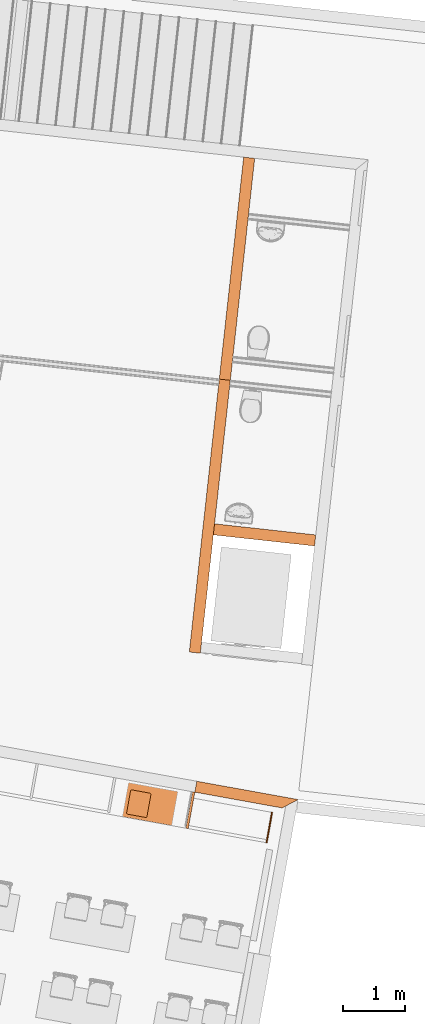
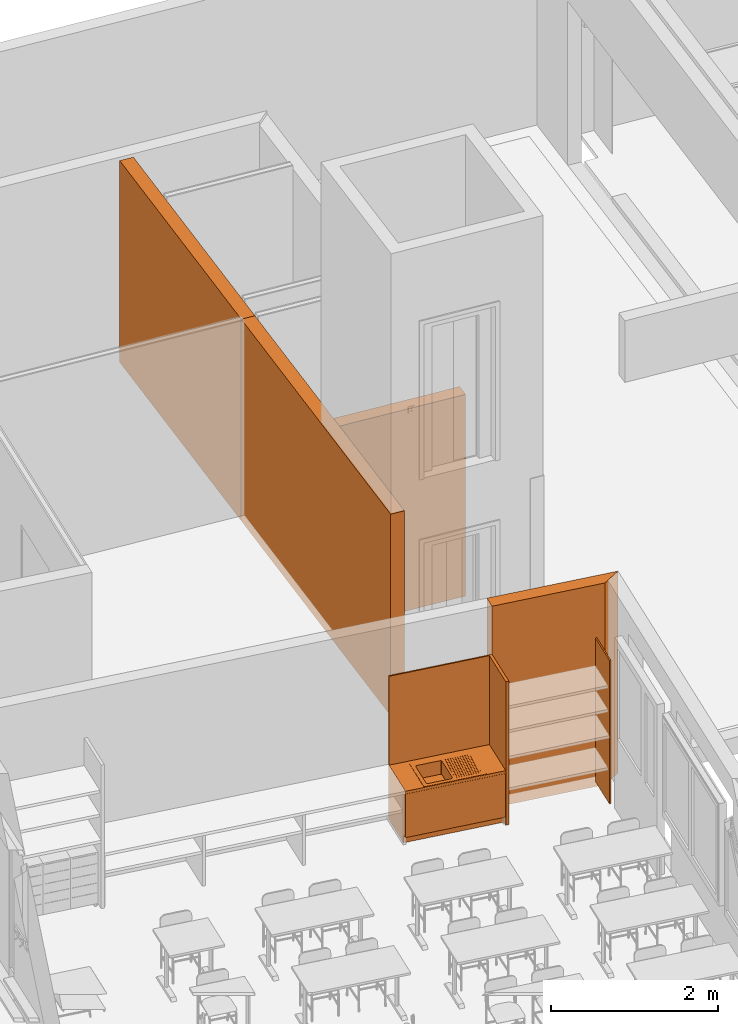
# One storey, part 49 of 79: 7 proxies.
"""IFC2X3 building model written with IfcOpenShell, lengths in metres."""

from ifc_helpers import new_model, entity, si_unit, converted_unit, derived_unit, money_unit, direction, frame, origin_with_axes, place, context, subcontext, project, spatial, polyline, outline, extrude, open_shell, faceted_brep, surface_model, source, transform, mapped, material, type_object, element, save


model = new_model("IFC2X3")

# Units and contexts
model_context = context("Model", 3, precision=1e-05, world=origin_with_axes(), true_north=direction((0.0, 1.0)))
body_context = subcontext(model_context, "Body", "Model", "MODEL_VIEW")
ifc_project = project(units=[si_unit("LENGTHUNIT", "METRE"), si_unit("AREAUNIT", "SQUARE_METRE"), si_unit("VOLUMEUNIT", "CUBIC_METRE"), converted_unit("PLANEANGLEUNIT", "DEGREE", entity("IfcPlaneAngleMeasure", 0.0174532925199), si_unit("PLANEANGLEUNIT", "RADIAN"), dimensions=[0, 0, 0, 0, 0, 0, 0]), money_unit("CHF"), converted_unit("TIMEUNIT", "Year", entity("IfcTimeMeasure", 31556926.0), si_unit("TIMEUNIT", "SECOND"), dimensions=[0, 0, 1, 0, 0, 0, 0]), si_unit("MASSUNIT", "GRAM", prefix="KILO"), si_unit("THERMODYNAMICTEMPERATUREUNIT", "DEGREE_CELSIUS"), si_unit("LUMINOUSINTENSITYUNIT", "LUMEN"), si_unit("ENERGYUNIT", "JOULE", prefix="MEGA"), derived_unit("THERMALCONDUCTANCEUNIT", [(si_unit("POWERUNIT", "WATT"), 1), (si_unit("LENGTHUNIT", "METRE"), -1), (si_unit("THERMODYNAMICTEMPERATUREUNIT", "KELVIN"), -1)]), derived_unit("SPECIFICHEATCAPACITYUNIT", [(si_unit("ENERGYUNIT", "JOULE"), 1), (si_unit("MASSUNIT", "GRAM", prefix="KILO"), -1), (si_unit("THERMODYNAMICTEMPERATUREUNIT", "KELVIN"), -1)]), derived_unit("MASSDENSITYUNIT", [(si_unit("MASSUNIT", "GRAM", prefix="KILO"), 1), (si_unit("VOLUMEUNIT", "CUBIC_METRE"), -1)])], contexts=[model_context])

# Site, building, storey
site_placement = place(None, frame((0.0, 0.0, 0.0), z_axis=(0.0, 0.0, 1.0), x_axis=(-0.177771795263, -0.984071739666, 0.0)))
site = spatial("IfcSite", under=ifc_project, at=site_placement, Name="Site", CompositionType="ELEMENT")
building_placement = place(site_placement, origin_with_axes())
building = spatial("IfcBuilding", under=site, at=building_placement, Name="Bâtiment", CompositionType="ELEMENT")
storey_placement = place(building_placement, origin_with_axes())
storey = spatial("IfcBuildingStorey", under=building, at=storey_placement, Name="RDC", CompositionType="ELEMENT", Elevation=0.0)

# Proxies
ifc_material_1 = material(Name="_BA banché RAL9007")
building_element_proxy_type_1 = type_object("IfcBuildingElementProxyType", Name="_BA banché RAL9007 180", PredefinedType="NOTDEFINED")
proxy_1_placement = place(storey_placement, frame((105.947008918, -150.23269007, -0.15), z_axis=(0.0, 0.0, 1.0), x_axis=(-0.0692627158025, 0.997598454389, 0.0)))
element("IfcBuildingElementProxy", 1, at=proxy_1_placement, inside=storey, type_object=building_element_proxy_type_1, material=ifc_material_1, Name="M refend", context=body_context, shape_type="SweptSolid", body=[
    extrude(outline(polyline([(0.0, 0.0), (1.6499974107, 0.0), (1.64999716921, 0.18), (0.0, 0.18), (0.0, 0.0)])), origin_with_axes(), (0.0, 0.0, 1.0), 2.95),
])
proxy_2_placement = place(storey_placement, frame((99.6425598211, -150.670404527, -0.15), z_axis=(0.0, 0.0, 1.0), x_axis=(0.997598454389, 0.0692627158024, 0.0)))
element("IfcBuildingElementProxy", 2, at=proxy_2_placement, inside=storey, type_object=building_element_proxy_type_1, material=ifc_material_1, Name="M refend", context=body_context, shape_type="SweptSolid", body=[
    extrude(outline(polyline([(0.179999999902, -0.18), (3.8, -0.18), (3.8, 0.0), (0.1799999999, 0.0), (0.179999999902, -0.18)])), origin_with_axes(), (0.0, 0.0, 1.0), 2.95),
])
proxy_3_placement = place(storey_placement, frame((103.433433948, -150.407206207, -0.15), z_axis=(0.0, 0.0, 1.0), x_axis=(0.997598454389, 0.0692627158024, 0.0)))
element("IfcBuildingElementProxy", 3, at=proxy_3_placement, inside=storey, type_object=building_element_proxy_type_1, material=ifc_material_1, Name="M refend", context=body_context, shape_type="SweptSolid", body=[
    extrude(outline(polyline([(0.0, -0.18), (4.44962596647, -0.18), (4.44962596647, 0.0), (0.0, 0.0), (0.0, -0.18)])), origin_with_axes(), (0.0, 0.0, 1.0), 2.95),
])
ifc_material_2 = material(Name="Matériau de construction IFC")
building_element_proxy_type_2 = type_object("IfcBuildingElementProxyType", Name="Elément simple avec deux portes 21", PredefinedType="NOTDEFINED")
shared_shape = source(origin_with_axes(), body_context, "Body", "SurfaceModel", [
    surface_model("IfcShellBasedSurfaceModel", [(0.5, 0.600000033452, 0.733), (0.496505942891, 0.600000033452, 0.733460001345), (0.496505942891, 0.620000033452, 0.733460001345), (0.5, 0.620000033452, 0.733), (0.49325, 0.600000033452, 0.734808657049), (0.49325, 0.620000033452, 0.734808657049), (0.503494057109, 0.600000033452, 0.733460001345), (0.503494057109, 0.620000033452, 0.733460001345), (0.490454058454, 0.600000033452, 0.736954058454), (0.490454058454, 0.620000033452, 0.736954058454), (0.50675, 0.600000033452, 0.734808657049), (0.50675, 0.620000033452, 0.734808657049), (0.488308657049, 0.600000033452, 0.73975), (0.488308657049, 0.620000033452, 0.73975), (0.509545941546, 0.600000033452, 0.736954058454), (0.509545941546, 0.620000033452, 0.736954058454), (0.486960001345, 0.600000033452, 0.743005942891), (0.486960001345, 0.620000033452, 0.743005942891), (0.511691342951, 0.600000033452, 0.73975), (0.511691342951, 0.620000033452, 0.73975), (0.4865, 0.600000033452, 0.7465), (0.4865, 0.620000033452, 0.7465), (0.513039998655, 0.600000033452, 0.743005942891), (0.513039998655, 0.620000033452, 0.743005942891), (0.486960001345, 0.600000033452, 0.749994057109), (0.486960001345, 0.620000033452, 0.749994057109), (0.5135, 0.600000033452, 0.7465), (0.5135, 0.620000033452, 0.7465), (0.488308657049, 0.600000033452, 0.75325), (0.488308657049, 0.620000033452, 0.75325), (0.513039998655, 0.600000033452, 0.749994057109), (0.513039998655, 0.620000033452, 0.749994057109), (0.490454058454, 0.600000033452, 0.756045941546), (0.490454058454, 0.620000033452, 0.756045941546), (0.511691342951, 0.600000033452, 0.75325), (0.511691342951, 0.620000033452, 0.75325), (0.49325, 0.600000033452, 0.758191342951), (0.49325, 0.620000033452, 0.758191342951), (0.509545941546, 0.600000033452, 0.756045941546), (0.509545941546, 0.620000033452, 0.756045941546), (0.496505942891, 0.600000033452, 0.759539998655), (0.496505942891, 0.620000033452, 0.759539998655), (0.50675, 0.600000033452, 0.758191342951), (0.50675, 0.620000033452, 0.758191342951), (0.5, 0.600000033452, 0.76), (0.5, 0.620000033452, 0.76), (0.503494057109, 0.600000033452, 0.759539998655), (0.503494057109, 0.620000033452, 0.759539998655)], [open_shell([[[0, 1, 2, 3]], [[1, 4, 5, 2]], [[6, 0, 3, 7]], [[4, 8, 9, 5]], [[10, 6, 7, 11]], [[8, 12, 13, 9]], [[14, 10, 11, 15]], [[12, 16, 17, 13]], [[18, 14, 15, 19]], [[16, 20, 21, 17]], [[22, 18, 19, 23]], [[20, 24, 25, 21]], [[26, 22, 23, 27]], [[24, 28, 29, 25]], [[30, 26, 27, 31]], [[28, 32, 33, 29]], [[34, 30, 31, 35]], [[32, 36, 37, 33]], [[38, 34, 35, 39]], [[36, 40, 41, 37]], [[42, 38, 39, 43]], [[40, 44, 45, 41]], [[46, 42, 43, 47]], [[44, 46, 47, 45]]])]),
    surface_model("IfcShellBasedSurfaceModel", [(0.7, 0.600000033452, 0.733), (0.696505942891, 0.600000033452, 0.733460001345), (0.696505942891, 0.620000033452, 0.733460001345), (0.7, 0.620000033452, 0.733), (0.69325, 0.600000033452, 0.734808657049), (0.69325, 0.620000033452, 0.734808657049), (0.703494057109, 0.600000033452, 0.733460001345), (0.703494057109, 0.620000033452, 0.733460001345), (0.690454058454, 0.600000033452, 0.736954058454), (0.690454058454, 0.620000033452, 0.736954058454), (0.70675, 0.600000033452, 0.734808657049), (0.70675, 0.620000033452, 0.734808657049), (0.688308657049, 0.600000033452, 0.73975), (0.688308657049, 0.620000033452, 0.73975), (0.709545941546, 0.600000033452, 0.736954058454), (0.709545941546, 0.620000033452, 0.736954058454), (0.686960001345, 0.600000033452, 0.743005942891), (0.686960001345, 0.620000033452, 0.743005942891), (0.711691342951, 0.600000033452, 0.73975), (0.711691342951, 0.620000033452, 0.73975), (0.6865, 0.600000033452, 0.7465), (0.6865, 0.620000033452, 0.7465), (0.713039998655, 0.600000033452, 0.743005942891), (0.713039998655, 0.620000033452, 0.743005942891), (0.686960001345, 0.600000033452, 0.749994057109), (0.686960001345, 0.620000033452, 0.749994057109), (0.7135, 0.600000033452, 0.7465), (0.7135, 0.620000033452, 0.7465), (0.688308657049, 0.600000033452, 0.75325), (0.688308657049, 0.620000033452, 0.75325), (0.713039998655, 0.600000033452, 0.749994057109), (0.713039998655, 0.620000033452, 0.749994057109), (0.690454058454, 0.600000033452, 0.756045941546), (0.690454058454, 0.620000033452, 0.756045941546), (0.711691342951, 0.600000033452, 0.75325), (0.711691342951, 0.620000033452, 0.75325), (0.69325, 0.600000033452, 0.758191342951), (0.69325, 0.620000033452, 0.758191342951), (0.709545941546, 0.600000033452, 0.756045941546), (0.709545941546, 0.620000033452, 0.756045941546), (0.696505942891, 0.600000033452, 0.759539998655), (0.696505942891, 0.620000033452, 0.759539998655), (0.70675, 0.600000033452, 0.758191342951), (0.70675, 0.620000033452, 0.758191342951), (0.7, 0.600000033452, 0.76), (0.7, 0.620000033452, 0.76), (0.703494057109, 0.600000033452, 0.759539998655), (0.703494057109, 0.620000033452, 0.759539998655)], [open_shell([[[0, 1, 2, 3]], [[1, 4, 5, 2]], [[6, 0, 3, 7]], [[4, 8, 9, 5]], [[10, 6, 7, 11]], [[8, 12, 13, 9]], [[14, 10, 11, 15]], [[12, 16, 17, 13]], [[18, 14, 15, 19]], [[16, 20, 21, 17]], [[22, 18, 19, 23]], [[20, 24, 25, 21]], [[26, 22, 23, 27]], [[24, 28, 29, 25]], [[30, 26, 27, 31]], [[28, 32, 33, 29]], [[34, 30, 31, 35]], [[32, 36, 37, 33]], [[38, 34, 35, 39]], [[36, 40, 41, 37]], [[42, 38, 39, 43]], [[40, 44, 45, 41]], [[46, 42, 43, 47]], [[44, 46, 47, 45]]])]),
    surface_model("IfcShellBasedSurfaceModel", [(0.6, 0.600000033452, 0.579), (0.594564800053, 0.600000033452, 0.579715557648), (0.594564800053, 0.620000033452, 0.579715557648), (0.6, 0.620000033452, 0.579), (0.5895, 0.600000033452, 0.581813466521), (0.5895, 0.620000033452, 0.581813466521), (0.605435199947, 0.600000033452, 0.579715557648), (0.605435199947, 0.620000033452, 0.579715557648), (0.585150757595, 0.600000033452, 0.585150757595), (0.585150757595, 0.620000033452, 0.585150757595), (0.6105, 0.600000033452, 0.581813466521), (0.6105, 0.620000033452, 0.581813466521), (0.581813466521, 0.600000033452, 0.5895), (0.581813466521, 0.620000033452, 0.5895), (0.614849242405, 0.600000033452, 0.585150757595), (0.614849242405, 0.620000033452, 0.585150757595), (0.579715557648, 0.600000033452, 0.594564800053), (0.579715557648, 0.620000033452, 0.594564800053), (0.618186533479, 0.600000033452, 0.5895), (0.618186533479, 0.620000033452, 0.5895), (0.579, 0.600000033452, 0.6), (0.579, 0.620000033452, 0.6), (0.620284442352, 0.600000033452, 0.594564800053), (0.620284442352, 0.620000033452, 0.594564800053), (0.579715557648, 0.600000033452, 0.605435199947), (0.579715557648, 0.620000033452, 0.605435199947), (0.621, 0.600000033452, 0.6), (0.621, 0.620000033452, 0.6), (0.581813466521, 0.600000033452, 0.6105), (0.581813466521, 0.620000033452, 0.6105), (0.620284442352, 0.600000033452, 0.605435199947), (0.620284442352, 0.620000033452, 0.605435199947), (0.585150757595, 0.600000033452, 0.614849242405), (0.585150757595, 0.620000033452, 0.614849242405), (0.618186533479, 0.600000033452, 0.6105), (0.618186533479, 0.620000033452, 0.6105), (0.5895, 0.600000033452, 0.618186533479), (0.5895, 0.620000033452, 0.618186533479), (0.614849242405, 0.600000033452, 0.614849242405), (0.614849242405, 0.620000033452, 0.614849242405), (0.594564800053, 0.600000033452, 0.620284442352), (0.594564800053, 0.620000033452, 0.620284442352), (0.6105, 0.600000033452, 0.618186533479), (0.6105, 0.620000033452, 0.618186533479), (0.6, 0.600000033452, 0.621), (0.6, 0.620000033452, 0.621), (0.605435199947, 0.600000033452, 0.620284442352), (0.605435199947, 0.620000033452, 0.620284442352)], [open_shell([[[0, 1, 2, 3]], [[1, 4, 5, 2]], [[6, 0, 3, 7]], [[4, 8, 9, 5]], [[10, 6, 7, 11]], [[8, 12, 13, 9]], [[14, 10, 11, 15]], [[12, 16, 17, 13]], [[18, 14, 15, 19]], [[16, 20, 21, 17]], [[22, 18, 19, 23]], [[20, 24, 25, 21]], [[26, 22, 23, 27]], [[24, 28, 29, 25]], [[30, 26, 27, 31]], [[28, 32, 33, 29]], [[34, 30, 31, 35]], [[32, 36, 37, 33]], [[38, 34, 35, 39]], [[36, 40, 41, 37]], [[42, 38, 39, 43]], [[40, 44, 45, 41]], [[46, 42, 43, 47]], [[44, 46, 47, 45]]])]),
    faceted_brep([(0.0, 0.07, 0.0), (1.278, 0.07, 0.0), (1.278, 0.07, 0.12), (0.0, 0.07, 0.12), (0.0, 0.600000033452, 0.0), (1.278, 0.600000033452, 0.0), (1.278, 0.600000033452, 0.12), (0.0, 0.600000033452, 0.12)], [[[0, 1, 2, 3]], [[0, 4, 5, 1]], [[1, 5, 6, 2]], [[3, 2, 6, 7]], [[4, 0, 3, 7]], [[5, 4, 7, 6]]]),
    faceted_brep([(0.0, 0.02, 0.12), (0.02, 0.02, 0.12), (0.02, 0.02, 0.14), (0.0, 0.02, 0.14), (0.0, 0.600000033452, 0.12), (0.02, 0.600000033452, 0.12), (1.258, 0.600000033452, 0.12), (1.278, 0.600000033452, 0.12), (1.278, 0.02, 0.12), (1.258, 0.02, 0.12), (1.258, 0.02, 0.14), (1.278, 0.02, 0.14), (1.278, 0.600000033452, 0.14), (1.258, 0.600000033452, 0.14), (0.02, 0.600000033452, 0.14), (0.0, 0.600000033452, 0.14)], [[[0, 1, 2, 3]], [[0, 4, 5, 6, 7, 8, 9, 1]], [[1, 9, 10, 2]], [[3, 2, 10, 11, 12, 13, 14, 15]], [[4, 0, 3, 15]], [[5, 4, 15, 14]], [[6, 5, 14, 13]], [[7, 6, 13, 12]], [[8, 7, 12, 11]], [[9, 8, 11, 10]]]),
    faceted_brep([(0.0, 0.02, 0.14), (0.02, 0.02, 0.14), (0.02, 0.02, 0.76), (0.0, 0.02, 0.76), (0.0, 0.600000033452, 0.14), (1.278, 0.600000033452, 0.14), (1.278, 0.02, 0.14), (1.258, 0.02, 0.14), (1.258, 0.580000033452, 0.14), (0.02, 0.580000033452, 0.14), (0.02, 0.580000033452, 0.76), (1.258, 0.580000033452, 0.76), (1.258, 0.02, 0.76), (1.278, 0.02, 0.76), (1.278, 0.600000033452, 0.76), (0.0, 0.600000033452, 0.76)], [[[0, 1, 2, 3]], [[0, 4, 5, 6, 7, 8, 9, 1]], [[1, 9, 10, 2]], [[3, 2, 10, 11, 12, 13, 14, 15]], [[4, 0, 3, 15]], [[5, 4, 15, 14]], [[6, 5, 14, 13]], [[7, 6, 13, 12]], [[8, 7, 12, 11]], [[9, 8, 11, 10]]]),
    faceted_brep([(1.258, 0.02, 0.41), (1.258, 0.580000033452, 0.41), (1.258, 0.580000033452, 0.43), (1.258, 0.02, 0.43), (0.02, 0.02, 0.41), (0.02, 0.580000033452, 0.41), (0.02, 0.580000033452, 0.43), (0.02, 0.02, 0.43)], [[[0, 1, 2, 3]], [[0, 4, 5, 1]], [[1, 5, 6, 2]], [[3, 2, 6, 7]], [[4, 0, 3, 7]], [[5, 4, 7, 6]]]),
    surface_model("IfcShellBasedSurfaceModel", [(0.309, 0.0550000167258, 0.605), (0.604, 0.0550000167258, 0.605), (0.604, 0.0550000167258, 0.8), (0.309, 0.0550000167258, 0.8), (0.299, 0.0576795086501, 0.605), (0.291679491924, 0.0650000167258, 0.605), (0.289, 0.0750000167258, 0.605), (0.289, 0.435000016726, 0.605), (0.291679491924, 0.445000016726, 0.605), (0.299, 0.452320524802, 0.605), (0.309, 0.455000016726, 0.605), (0.604, 0.455000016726, 0.605), (0.614, 0.452320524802, 0.605), (0.621320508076, 0.445000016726, 0.605), (0.624, 0.435000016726, 0.605), (0.624, 0.0750000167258, 0.605), (0.618142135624, 0.0608578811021, 0.605), (0.618142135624, 0.0608578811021, 0.8), (0.299, 0.0576795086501, 0.8), (0.291679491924, 0.0650000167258, 0.8), (0.289, 0.0750000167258, 0.8), (0.289, 0.435000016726, 0.8), (0.291679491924, 0.445000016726, 0.8), (0.299, 0.452320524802, 0.8), (0.309, 0.455000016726, 0.8), (0.604, 0.455000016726, 0.8), (0.614, 0.452320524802, 0.8), (0.621320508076, 0.445000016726, 0.8), (0.624, 0.435000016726, 0.8), (0.624, 0.0750000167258, 0.8)], [open_shell([[[0, 1, 2, 3]], [[0, 4, 5, 6, 7, 8, 9, 10, 11, 12, 13, 14, 15, 16, 1]], [[1, 16, 17, 2]], [[4, 0, 3, 18]], [[5, 4, 18, 19]], [[6, 5, 19, 20]], [[7, 6, 20, 21]], [[8, 7, 21, 22]], [[9, 8, 22, 23]], [[10, 9, 23, 24]], [[11, 10, 24, 25]], [[12, 11, 25, 26]], [[13, 12, 26, 27]], [[14, 13, 27, 28]], [[15, 14, 28, 29]], [[16, 15, 29, 17]]])]),
    faceted_brep([(0.259, 0.00500001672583, 0.8), (1.019, 0.00500001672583, 0.8), (1.019, 0.00500001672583, 0.805), (0.259, 0.00500001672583, 0.805), (0.249, 0.00767950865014, 0.8), (0.241679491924, 0.0150000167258, 0.8), (0.239, 0.0250000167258, 0.8), (0.239, 0.535000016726, 0.8), (0.241679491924, 0.545000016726, 0.8), (0.249, 0.552320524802, 0.8), (0.259, 0.555000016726, 0.8), (1.019, 0.555000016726, 0.8), (1.029, 0.552320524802, 0.8), (1.03632050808, 0.545000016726, 0.8), (1.039, 0.535000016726, 0.8), (1.039, 0.0250000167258, 0.8), (1.03314213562, 0.0108578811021, 0.8), (0.309, 0.0550000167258, 0.8), (0.604, 0.0550000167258, 0.8), (0.618142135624, 0.0608578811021, 0.8), (0.624, 0.0750000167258, 0.8), (0.624, 0.435000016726, 0.8), (0.621320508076, 0.445000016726, 0.8), (0.614, 0.452320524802, 0.8), (0.604, 0.455000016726, 0.8), (0.309, 0.455000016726, 0.8), (0.299, 0.452320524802, 0.8), (0.291679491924, 0.445000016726, 0.8), (0.289, 0.435000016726, 0.8), (0.289, 0.0750000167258, 0.8), (0.291679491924, 0.0650000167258, 0.8), (0.299, 0.0576795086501, 0.8), (1.03314213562, 0.0108578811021, 0.805), (1.039, 0.0250000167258, 0.805), (1.039, 0.535000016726, 0.805), (1.03632050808, 0.545000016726, 0.805), (1.029, 0.552320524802, 0.805), (1.019, 0.555000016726, 0.805), (0.259, 0.555000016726, 0.805), (0.249, 0.552320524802, 0.805), (0.241679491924, 0.545000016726, 0.805), (0.239, 0.535000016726, 0.805), (0.239, 0.0250000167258, 0.805), (0.241679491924, 0.0150000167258, 0.805), (0.249, 0.00767950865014, 0.805), (0.309, 0.0550000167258, 0.805), (0.299, 0.0576795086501, 0.805), (0.291679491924, 0.0650000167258, 0.805), (0.289, 0.0750000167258, 0.805), (0.289, 0.435000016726, 0.805), (0.291679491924, 0.445000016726, 0.805), (0.299, 0.452320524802, 0.805), (0.309, 0.455000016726, 0.805), (0.604, 0.455000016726, 0.805), (0.614, 0.452320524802, 0.805), (0.621320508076, 0.445000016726, 0.805), (0.624, 0.435000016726, 0.805), (0.624, 0.0750000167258, 0.805), (0.618142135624, 0.0608578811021, 0.805), (0.604, 0.0550000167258, 0.805)], [[[0, 1, 2, 3]], [[0, 4, 5, 6, 7, 8, 9, 10, 11, 12, 13, 14, 15, 16, 1], [17, 18, 19, 20, 21, 22, 23, 24, 25, 26, 27, 28, 29, 30, 31]], [[1, 16, 32, 2]], [[3, 2, 32, 33, 34, 35, 36, 37, 38, 39, 40, 41, 42, 43, 44], [45, 46, 47, 48, 49, 50, 51, 52, 53, 54, 55, 56, 57, 58, 59]], [[4, 0, 3, 44]], [[5, 4, 44, 43]], [[6, 5, 43, 42]], [[7, 6, 42, 41]], [[8, 7, 41, 40]], [[9, 8, 40, 39]], [[10, 9, 39, 38]], [[11, 10, 38, 37]], [[12, 11, 37, 36]], [[13, 12, 36, 35]], [[14, 13, 35, 34]], [[15, 14, 34, 33]], [[16, 15, 33, 32]], [[18, 17, 45, 59]], [[19, 18, 59, 58]], [[20, 19, 58, 57]], [[21, 20, 57, 56]], [[22, 21, 56, 55]], [[23, 22, 55, 54]], [[24, 23, 54, 53]], [[25, 24, 53, 52]], [[26, 25, 52, 51]], [[27, 26, 51, 50]], [[28, 27, 50, 49]], [[29, 28, 49, 48]], [[30, 29, 48, 47]], [[31, 30, 47, 46]], [[17, 31, 46, 45]]]),
    faceted_brep([(0.654, 0.0600000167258, 0.805), (0.959, 0.0600000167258, 0.805), (0.959, 0.0600000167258, 0.807), (0.654, 0.0600000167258, 0.807), (0.654, 0.0650000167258, 0.805), (0.959, 0.0650000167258, 0.805), (0.959, 0.0650000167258, 0.807), (0.654, 0.0650000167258, 0.807)], [[[0, 1, 2, 3]], [[0, 4, 5, 1]], [[1, 5, 6, 2]], [[3, 2, 6, 7]], [[4, 0, 3, 7]], [[5, 4, 7, 6]]]),
    faceted_brep([(0.654, 0.0925000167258, 0.805), (0.989, 0.0925000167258, 0.805), (0.989, 0.0925000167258, 0.807), (0.654, 0.0925000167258, 0.807), (0.654, 0.0975000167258, 0.805), (0.989, 0.0975000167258, 0.805), (0.989, 0.0975000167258, 0.807), (0.654, 0.0975000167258, 0.807)], [[[0, 1, 2, 3]], [[0, 4, 5, 1]], [[1, 5, 6, 2]], [[3, 2, 6, 7]], [[4, 0, 3, 7]], [[5, 4, 7, 6]]]),
    faceted_brep([(0.654, 0.125000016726, 0.805), (0.989, 0.125000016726, 0.805), (0.989, 0.125000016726, 0.807), (0.654, 0.125000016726, 0.807), (0.654, 0.130000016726, 0.805), (0.989, 0.130000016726, 0.805), (0.989, 0.130000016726, 0.807), (0.654, 0.130000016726, 0.807)], [[[0, 1, 2, 3]], [[0, 4, 5, 1]], [[1, 5, 6, 2]], [[3, 2, 6, 7]], [[4, 0, 3, 7]], [[5, 4, 7, 6]]]),
    faceted_brep([(0.654, 0.157500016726, 0.805), (0.989, 0.157500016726, 0.805), (0.989, 0.157500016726, 0.807), (0.654, 0.157500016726, 0.807), (0.654, 0.162500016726, 0.805), (0.989, 0.162500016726, 0.805), (0.989, 0.162500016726, 0.807), (0.654, 0.162500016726, 0.807)], [[[0, 1, 2, 3]], [[0, 4, 5, 1]], [[1, 5, 6, 2]], [[3, 2, 6, 7]], [[4, 0, 3, 7]], [[5, 4, 7, 6]]]),
    faceted_brep([(0.654, 0.190000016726, 0.805), (0.989, 0.190000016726, 0.805), (0.989, 0.190000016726, 0.807), (0.654, 0.190000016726, 0.807), (0.654, 0.195000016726, 0.805), (0.989, 0.195000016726, 0.805), (0.989, 0.195000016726, 0.807), (0.654, 0.195000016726, 0.807)], [[[0, 1, 2, 3]], [[0, 4, 5, 1]], [[1, 5, 6, 2]], [[3, 2, 6, 7]], [[4, 0, 3, 7]], [[5, 4, 7, 6]]]),
    faceted_brep([(0.654, 0.222500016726, 0.805), (0.989, 0.222500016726, 0.805), (0.989, 0.222500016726, 0.807), (0.654, 0.222500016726, 0.807), (0.654, 0.227500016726, 0.805), (0.989, 0.227500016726, 0.805), (0.989, 0.227500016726, 0.807), (0.654, 0.227500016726, 0.807)], [[[0, 1, 2, 3]], [[0, 4, 5, 1]], [[1, 5, 6, 2]], [[3, 2, 6, 7]], [[4, 0, 3, 7]], [[5, 4, 7, 6]]]),
    faceted_brep([(0.654, 0.255000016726, 0.805), (0.989, 0.255000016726, 0.805), (0.989, 0.255000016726, 0.807), (0.654, 0.255000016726, 0.807), (0.654, 0.260000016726, 0.805), (0.989, 0.260000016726, 0.805), (0.989, 0.260000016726, 0.807), (0.654, 0.260000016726, 0.807)], [[[0, 1, 2, 3]], [[0, 4, 5, 1]], [[1, 5, 6, 2]], [[3, 2, 6, 7]], [[4, 0, 3, 7]], [[5, 4, 7, 6]]]),
    faceted_brep([(0.654, 0.287500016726, 0.805), (0.989, 0.287500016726, 0.805), (0.989, 0.287500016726, 0.807), (0.654, 0.287500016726, 0.807), (0.654, 0.292500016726, 0.805), (0.989, 0.292500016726, 0.805), (0.989, 0.292500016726, 0.807), (0.654, 0.292500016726, 0.807)], [[[0, 1, 2, 3]], [[0, 4, 5, 1]], [[1, 5, 6, 2]], [[3, 2, 6, 7]], [[4, 0, 3, 7]], [[5, 4, 7, 6]]]),
    faceted_brep([(0.654, 0.320000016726, 0.805), (0.989, 0.320000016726, 0.805), (0.989, 0.320000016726, 0.807), (0.654, 0.320000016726, 0.807), (0.654, 0.325000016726, 0.805), (0.989, 0.325000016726, 0.805), (0.989, 0.325000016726, 0.807), (0.654, 0.325000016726, 0.807)], [[[0, 1, 2, 3]], [[0, 4, 5, 1]], [[1, 5, 6, 2]], [[3, 2, 6, 7]], [[4, 0, 3, 7]], [[5, 4, 7, 6]]]),
    faceted_brep([(0.654, 0.352500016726, 0.805), (0.989, 0.352500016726, 0.805), (0.989, 0.352500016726, 0.807), (0.654, 0.352500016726, 0.807), (0.654, 0.357500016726, 0.805), (0.989, 0.357500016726, 0.805), (0.989, 0.357500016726, 0.807), (0.654, 0.357500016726, 0.807)], [[[0, 1, 2, 3]], [[0, 4, 5, 1]], [[1, 5, 6, 2]], [[3, 2, 6, 7]], [[4, 0, 3, 7]], [[5, 4, 7, 6]]]),
    faceted_brep([(0.654, 0.385000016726, 0.805), (0.989, 0.385000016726, 0.805), (0.989, 0.385000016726, 0.807), (0.654, 0.385000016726, 0.807), (0.654, 0.390000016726, 0.805), (0.989, 0.390000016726, 0.805), (0.989, 0.390000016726, 0.807), (0.654, 0.390000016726, 0.807)], [[[0, 1, 2, 3]], [[0, 4, 5, 1]], [[1, 5, 6, 2]], [[3, 2, 6, 7]], [[4, 0, 3, 7]], [[5, 4, 7, 6]]]),
    faceted_brep([(0.654, 0.417500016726, 0.805), (0.989, 0.417500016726, 0.805), (0.989, 0.417500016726, 0.807), (0.654, 0.417500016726, 0.807), (0.654, 0.422500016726, 0.805), (0.989, 0.422500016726, 0.805), (0.989, 0.422500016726, 0.807), (0.654, 0.422500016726, 0.807)], [[[0, 1, 2, 3]], [[0, 4, 5, 1]], [[1, 5, 6, 2]], [[3, 2, 6, 7]], [[4, 0, 3, 7]], [[5, 4, 7, 6]]]),
    faceted_brep([(0.654, 0.450000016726, 0.805), (0.959, 0.450000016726, 0.805), (0.959, 0.450000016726, 0.807), (0.654, 0.450000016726, 0.807), (0.654, 0.455000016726, 0.805), (0.959, 0.455000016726, 0.805), (0.959, 0.455000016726, 0.807), (0.654, 0.455000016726, 0.807)], [[[0, 1, 2, 3]], [[0, 4, 5, 1]], [[1, 5, 6, 2]], [[3, 2, 6, 7]], [[4, 0, 3, 7]], [[5, 4, 7, 6]]]),
    faceted_brep([(0.0, 0.0, 0.76), (1.278, 0.0, 0.76), (1.278, 0.0, 0.8), (0.0, 0.0, 0.8), (0.0, 0.600000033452, 0.76), (1.278, 0.600000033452, 0.76), (0.264, 0.0500000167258, 0.76), (1.014, 0.0500000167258, 0.76), (1.014, 0.535000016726, 0.76), (0.264, 0.535000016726, 0.76), (1.278, 0.600000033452, 0.8), (0.0, 0.600000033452, 0.8), (0.264, 0.0500000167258, 0.8), (0.264, 0.535000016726, 0.8), (1.014, 0.535000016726, 0.8), (1.014, 0.0500000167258, 0.8)], [[[0, 1, 2, 3]], [[0, 4, 5, 1], [6, 7, 8, 9]], [[1, 5, 10, 2]], [[3, 2, 10, 11], [12, 13, 14, 15]], [[4, 0, 3, 11]], [[5, 4, 11, 10]], [[7, 6, 12, 15]], [[8, 7, 15, 14]], [[9, 8, 14, 13]], [[6, 9, 13, 12]]]),
    faceted_brep([(0.0, 0.580000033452, 0.8), (1.278, 0.580000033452, 0.8), (1.278, 0.580000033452, 2.1), (0.0, 0.580000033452, 2.1), (0.0, 0.600000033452, 0.8), (1.278, 0.600000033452, 0.8), (1.278, 0.600000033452, 2.1), (0.0, 0.600000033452, 2.1)], [[[0, 1, 2, 3]], [[0, 4, 5, 1]], [[1, 5, 6, 2]], [[3, 2, 6, 7]], [[4, 0, 3, 7]], [[5, 4, 7, 6]]]),
    faceted_brep([(0.0015, 0.02, 0.1215), (0.6375, 0.02, 0.1215), (0.6375, 0.0, 0.1215), (0.0015, 0.0, 0.1215), (0.0015, 0.02, 0.7585), (0.6375, 0.02, 0.7585), (0.6375, 0.0, 0.7585), (0.0015, 0.0, 0.7585)], [[[0, 1, 2, 3]], [[0, 4, 5, 1]], [[1, 5, 6, 2]], [[3, 2, 6, 7]], [[4, 0, 3, 7]], [[5, 4, 7, 6]]]),
    faceted_brep([(1.2765, 0.02, 0.1215), (1.2765, 0.0, 0.1215), (0.6405, 0.0, 0.1215), (0.6405, 0.02, 0.1215), (1.2765, 0.02, 0.7585), (1.2765, 0.0, 0.7585), (0.6405, 0.0, 0.7585), (0.6405, 0.02, 0.7585)], [[[0, 1, 2, 3]], [[4, 5, 1, 0]], [[1, 5, 6, 2]], [[3, 2, 6, 7]], [[0, 3, 7, 4]], [[7, 6, 5, 4]]]),
])
proxy_4_placement = place(storey_placement, frame((110.704841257, -151.104151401, 0.0), z_axis=(0.0, 0.0, 1.0), x_axis=(0.0, 1.0, 0.0)))
element("IfcBuildingElementProxy", 4, at=proxy_4_placement, inside=storey, type_object=building_element_proxy_type_2, material=ifc_material_2, Name="evier-classe", context=body_context, shape_type="MappedRepresentation", body=[
    mapped(shared_shape, transform((0.0, 0.0, 0.0))),
])
ifc_material_3 = material(Name="_panneau mélaminé")
building_element_proxy_type_3 = type_object("IfcBuildingElementProxyType", Name="_panneau mélaminé 40", PredefinedType="NOTDEFINED")
proxy_5_placement = place(storey_placement, frame((110.704841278, -149.826151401, 0.0), z_axis=(0.0, 0.0, 1.0), x_axis=(-1.0, 0.0, 0.0)))
element("IfcBuildingElementProxy", 5, at=proxy_5_placement, inside=storey, type_object=building_element_proxy_type_3, material=ifc_material_3, Name="cloison-fd-classe D", context=body_context, shape_type="SweptSolid", body=[
    extrude(outline(polyline([(0.0, -0.04), (0.600000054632, -0.04), (0.600000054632, 0.0), (0.0, 0.0), (0.0, -0.04)])), origin_with_axes(), (0.0, 0.0, 1.0), 2.1),
])
building_element_proxy_type_4 = type_object("IfcBuildingElementProxyType", Name="_panneau mélaminé 19", PredefinedType="NOTDEFINED")
proxy_6_placement = place(storey_placement, frame((110.704841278, -148.506151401, 0.0), z_axis=(0.0, 0.0, 1.0), x_axis=(-1.0, 0.0, 0.0)))
element("IfcBuildingElementProxy", 6, at=proxy_6_placement, inside=storey, type_object=building_element_proxy_type_4, material=ifc_material_3, Name="cloison-fd-classe D", context=body_context, shape_type="SweptSolid", body=[
    extrude(outline(polyline([(0.0, -0.019), (0.500000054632, -0.019), (0.500000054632, 0.0), (0.0, 0.0), (0.0, -0.019)])), origin_with_axes(), (0.0, 0.0, 1.0), 2.1),
])
building_element_proxy_type_5 = type_object("IfcBuildingElementProxyType", Name="_M ext 18 +10 gris 280", PredefinedType="NOTDEFINED")
proxy_7_placement = place(storey_placement, frame((109.924841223, -149.786151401, -0.15), z_axis=(0.0, 0.0, 1.0), x_axis=(0.0, 1.0, 0.0)))
element("IfcBuildingElementProxy", 7, at=proxy_7_placement, inside=storey, type_object=building_element_proxy_type_5, material=ifc_material_1, Name="M retour_isol", context=body_context, shape_type="SweptSolid", body=[
    extrude(outline(polyline([(0.0, -0.18), (1.43757142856, -0.18), (1.66899999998, 0.0), (0.0, 0.0), (0.0, -0.18)])), origin_with_axes(), (0.0, 0.0, 1.0), 2.95),
])

save(model, "model.ifc")
